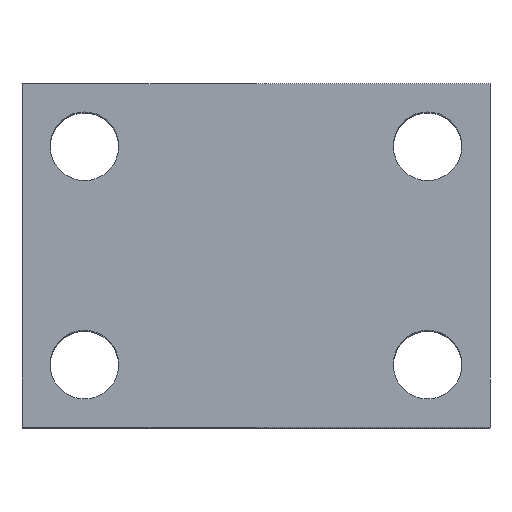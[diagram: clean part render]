
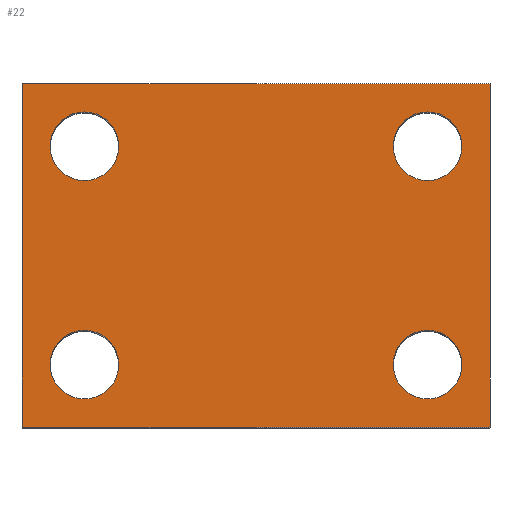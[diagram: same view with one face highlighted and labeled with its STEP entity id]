
A CAD part, top view. The second image highlights one B-rep face of the part: STEP entity #22.
In plain terms, the highlighted planar face has unit normal (0, 0, 1).
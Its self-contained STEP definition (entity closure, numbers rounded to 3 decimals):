
#22 = ADVANCED_FACE ( 'NONE', ( #8306, #11651, #1211, #4981, #14926 ), #14354, .F. ) ;
#109 = AXIS2_PLACEMENT_3D ( 'NONE', #13735, #6020, #15127 ) ;
#241 = EDGE_CURVE ( 'NONE', #4091, #1768, #17223, .T. ) ;
#1079 = DIRECTION ( 'NONE',  ( 0., 0., -1. ) ) ;
#1211 = FACE_BOUND ( 'NONE', #12170, .T. ) ;
#1375 = EDGE_CURVE ( 'NONE', #9356, #3630, #10785, .T. ) ;
#1479 = DIRECTION ( 'NONE',  ( -1., 0., 0. ) ) ;
#1514 = DIRECTION ( 'NONE',  ( 0., 0., -1. ) ) ;
#1542 = CARTESIAN_POINT ( 'NONE',  ( -27.5, 45., 47.5 ) ) ;
#1743 = DIRECTION ( 'NONE',  ( 1., 0., 0. ) ) ;
#1768 = VERTEX_POINT ( 'NONE', #5203 ) ;
#2008 = DIRECTION ( 'NONE',  ( -1., 0., 0. ) ) ;
#2205 = EDGE_CURVE ( 'NONE', #7382, #6386, #5368, .T. ) ;
#2304 = ORIENTED_EDGE ( 'NONE', *, *, #16546, .T. ) ;
#2347 = EDGE_CURVE ( 'NONE', #5833, #9356, #17186, .T. ) ;
#2390 = DIRECTION ( 'NONE',  ( 0., 0., -1. ) ) ;
#2490 = DIRECTION ( 'NONE',  ( 0., 0., -1. ) ) ;
#2593 = CARTESIAN_POINT ( 'NONE',  ( -27.5, 45., 47.5 ) ) ;
#2678 = VERTEX_POINT ( 'NONE', #12689 ) ;
#2804 = VERTEX_POINT ( 'NONE', #15884 ) ;
#3008 = CARTESIAN_POINT ( 'NONE',  ( 22., 45., 47.5 ) ) ;
#3020 = VERTEX_POINT ( 'NONE', #3008 ) ;
#3038 = EDGE_CURVE ( 'NONE', #1768, #4091, #16058, .T. ) ;
#3293 = AXIS2_PLACEMENT_3D ( 'NONE', #3960, #12953, #5302 ) ;
#3322 = EDGE_LOOP ( 'NONE', ( #9021, #2304 ) ) ;
#3627 = AXIS2_PLACEMENT_3D ( 'NONE', #9012, #1079, #10242 ) ;
#3630 = VERTEX_POINT ( 'NONE', #13494 ) ;
#3653 = ORIENTED_EDGE ( 'NONE', *, *, #1375, .T. ) ;
#3960 = CARTESIAN_POINT ( 'NONE',  ( 27.5, 10., 47.5 ) ) ;
#4091 = VERTEX_POINT ( 'NONE', #14467 ) ;
#4396 = CIRCLE ( 'NONE', #3627, 5.5 ) ;
#4397 = CARTESIAN_POINT ( 'NONE',  ( 37.5, 55., 47.5 ) ) ;
#4503 = DIRECTION ( 'NONE',  ( 0., 0., -1. ) ) ;
#4887 = CARTESIAN_POINT ( 'NONE',  ( 22., 10., 47.5 ) ) ;
#4905 = CARTESIAN_POINT ( 'NONE',  ( -37.5, 55., 47.5 ) ) ;
#4981 = FACE_BOUND ( 'NONE', #5791, .T. ) ;
#5173 = AXIS2_PLACEMENT_3D ( 'NONE', #2593, #2490, #2008 ) ;
#5191 = DIRECTION ( 'NONE',  ( 0., -1., 0. ) ) ;
#5203 = CARTESIAN_POINT ( 'NONE',  ( -33., 45., 47.5 ) ) ;
#5218 = ORIENTED_EDGE ( 'NONE', *, *, #3038, .T. ) ;
#5302 = DIRECTION ( 'NONE',  ( -1., 0., 0. ) ) ;
#5368 = CIRCLE ( 'NONE', #17306, 5.5 ) ;
#5733 = DIRECTION ( 'NONE',  ( -1., 0., 0. ) ) ;
#5767 = CARTESIAN_POINT ( 'NONE',  ( 33., 10., 47.5 ) ) ;
#5770 = DIRECTION ( 'NONE',  ( 0., 0., -1. ) ) ;
#5791 = EDGE_LOOP ( 'NONE', ( #9970, #14463 ) ) ;
#5796 = CARTESIAN_POINT ( 'NONE',  ( 27.5, 10., 47.5 ) ) ;
#5813 = DIRECTION ( 'NONE',  ( 0., -1., 0. ) ) ;
#5827 = VECTOR ( 'NONE', #5813, 1000. ) ;
#5833 = VERTEX_POINT ( 'NONE', #14881 ) ;
#6020 = DIRECTION ( 'NONE',  ( 0., 0., -1. ) ) ;
#6386 = VERTEX_POINT ( 'NONE', #5767 ) ;
#6527 = VECTOR ( 'NONE', #7966, 1000. ) ;
#7119 = VECTOR ( 'NONE', #1743, 1000. ) ;
#7382 = VERTEX_POINT ( 'NONE', #4887 ) ;
#7761 = CARTESIAN_POINT ( 'NONE',  ( -37.5, 0., 47.5 ) ) ;
#7966 = DIRECTION ( 'NONE',  ( 1., 0., 0. ) ) ;
#8306 = FACE_BOUND ( 'NONE', #15446, .T. ) ;
#8868 = CIRCLE ( 'NONE', #109, 5.5 ) ;
#9012 = CARTESIAN_POINT ( 'NONE',  ( 27.5, 45., 47.5 ) ) ;
#9021 = ORIENTED_EDGE ( 'NONE', *, *, #10952, .T. ) ;
#9109 = LINE ( 'NONE', #4397, #5827 ) ;
#9356 = VERTEX_POINT ( 'NONE', #14537 ) ;
#9413 = CIRCLE ( 'NONE', #3293, 5.5 ) ;
#9523 = EDGE_CURVE ( 'NONE', #2804, #3630, #9109, .T. ) ;
#9798 = ORIENTED_EDGE ( 'NONE', *, *, #2347, .T. ) ;
#9970 = ORIENTED_EDGE ( 'NONE', *, *, #10221, .T. ) ;
#10104 = CARTESIAN_POINT ( 'NONE',  ( -27.5, 10., 47.5 ) ) ;
#10221 = EDGE_CURVE ( 'NONE', #3020, #2678, #4396, .T. ) ;
#10242 = DIRECTION ( 'NONE',  ( -1., 0., 0. ) ) ;
#10556 = ORIENTED_EDGE ( 'NONE', *, *, #2205, .T. ) ;
#10785 = LINE ( 'NONE', #7761, #7119 ) ;
#10952 = EDGE_CURVE ( 'NONE', #14880, #13095, #12334, .T. ) ;
#11169 = CIRCLE ( 'NONE', #11187, 5.5 ) ;
#11187 = AXIS2_PLACEMENT_3D ( 'NONE', #12066, #4503, #13492 ) ;
#11412 = DIRECTION ( 'NONE',  ( -1., 0., 0. ) ) ;
#11596 = ORIENTED_EDGE ( 'NONE', *, *, #241, .T. ) ;
#11613 = ORIENTED_EDGE ( 'NONE', *, *, #9523, .F. ) ;
#11651 = FACE_BOUND ( 'NONE', #3322, .T. ) ;
#11820 = ORIENTED_EDGE ( 'NONE', *, *, #15055, .T. ) ;
#12066 = CARTESIAN_POINT ( 'NONE',  ( -27.5, 10., 47.5 ) ) ;
#12170 = EDGE_LOOP ( 'NONE', ( #10556, #11820 ) ) ;
#12334 = CIRCLE ( 'NONE', #16417, 5.5 ) ;
#12689 = CARTESIAN_POINT ( 'NONE',  ( 33., 45., 47.5 ) ) ;
#12949 = LINE ( 'NONE', #15795, #6527 ) ;
#12953 = DIRECTION ( 'NONE',  ( 0., 0., -1. ) ) ;
#13095 = VERTEX_POINT ( 'NONE', #17255 ) ;
#13165 = VECTOR ( 'NONE', #5191, 1000. ) ;
#13492 = DIRECTION ( 'NONE',  ( -1., 0., 0. ) ) ;
#13494 = CARTESIAN_POINT ( 'NONE',  ( 37.5, 0., 47.5 ) ) ;
#13707 = EDGE_CURVE ( 'NONE', #2678, #3020, #8868, .T. ) ;
#13735 = CARTESIAN_POINT ( 'NONE',  ( 27.5, 45., 47.5 ) ) ;
#13996 = DIRECTION ( 'NONE',  ( -1., 0., 0. ) ) ;
#14001 = DIRECTION ( 'NONE',  ( 0., 0., -1. ) ) ;
#14021 = CARTESIAN_POINT ( 'NONE',  ( -37.5, 55., 47.5 ) ) ;
#14354 = PLANE ( 'NONE',  #15560 ) ;
#14463 = ORIENTED_EDGE ( 'NONE', *, *, #13707, .T. ) ;
#14467 = CARTESIAN_POINT ( 'NONE',  ( -22., 45., 47.5 ) ) ;
#14537 = CARTESIAN_POINT ( 'NONE',  ( -37.5, 0., 47.5 ) ) ;
#14880 = VERTEX_POINT ( 'NONE', #16542 ) ;
#14881 = CARTESIAN_POINT ( 'NONE',  ( -37.5, 55., 47.5 ) ) ;
#14926 = FACE_OUTER_BOUND ( 'NONE', #15308, .T. ) ;
#15055 = EDGE_CURVE ( 'NONE', #6386, #7382, #9413, .T. ) ;
#15127 = DIRECTION ( 'NONE',  ( -1., 0., 0. ) ) ;
#15308 = EDGE_LOOP ( 'NONE', ( #3653, #11613, #16073, #9798 ) ) ;
#15446 = EDGE_LOOP ( 'NONE', ( #5218, #11596 ) ) ;
#15560 = AXIS2_PLACEMENT_3D ( 'NONE', #14021, #14001, #13996 ) ;
#15795 = CARTESIAN_POINT ( 'NONE',  ( -37.5, 55., 47.5 ) ) ;
#15884 = CARTESIAN_POINT ( 'NONE',  ( 37.5, 55., 47.5 ) ) ;
#16058 = CIRCLE ( 'NONE', #5173, 5.5 ) ;
#16073 = ORIENTED_EDGE ( 'NONE', *, *, #16334, .F. ) ;
#16334 = EDGE_CURVE ( 'NONE', #5833, #2804, #12949, .T. ) ;
#16417 = AXIS2_PLACEMENT_3D ( 'NONE', #10104, #2390, #11412 ) ;
#16469 = AXIS2_PLACEMENT_3D ( 'NONE', #1542, #1514, #1479 ) ;
#16542 = CARTESIAN_POINT ( 'NONE',  ( -33., 10., 47.5 ) ) ;
#16546 = EDGE_CURVE ( 'NONE', #13095, #14880, #11169, .T. ) ;
#17186 = LINE ( 'NONE', #4905, #13165 ) ;
#17223 = CIRCLE ( 'NONE', #16469, 5.5 ) ;
#17255 = CARTESIAN_POINT ( 'NONE',  ( -22., 10., 47.5 ) ) ;
#17306 = AXIS2_PLACEMENT_3D ( 'NONE', #5796, #5770, #5733 ) ;
